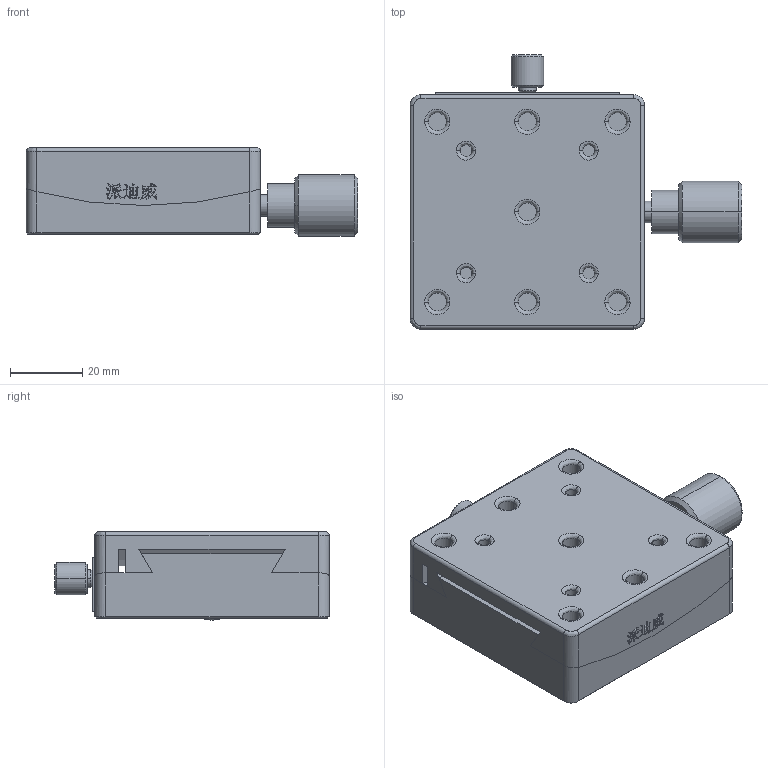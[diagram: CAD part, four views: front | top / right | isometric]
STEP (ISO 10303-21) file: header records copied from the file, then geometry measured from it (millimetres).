
FILE_DESCRIPTION (( 'STEP AP214' ), '1' );
FILE_NAME ('PT-SD301.STEP', '2022-09-03T09:03:49', ( '' ), ( '' ), 'SwSTEP 2.0', 'SolidWorks 2017', '' );
FILE_SCHEMA (( 'AUTOMOTIVE_DESIGN' ));
Length unit declared in the file: millimetre
Products named in the file (5): SJ130-10-100坶踡え; PT-SD301; SJ130-10-76坶踡忒謫; SJ130-10-100怢醱; SJ130-10-100菁釱
Assembly tree (4 placements, depth 2):
  PT-SD301
    SJ130-10-100菁釱
    SJ130-10-100怢醱
    SJ130-10-76坶踡忒謫
    SJ130-10-100坶踡え
Bounding box: 92 x 76.1 x 24.5 mm (x, y, z)
Volume: 98269.6 mm3; surface area: 31477.1 mm2
Topology: 4 solids, 4 shells, 542 faces, 1399 edges, 920 vertices
Faces by surface type: plane 261, bspline 182, cylinder 85, cone 14
Entity records: 23563 total; most frequent: CARTESIAN_POINT 11216, ORIENTED_EDGE 2798, DIRECTION 1979, EDGE_CURVE 1399, VERTEX_POINT 920, VECTOR 853, LINE 853, EDGE_LOOP 611
